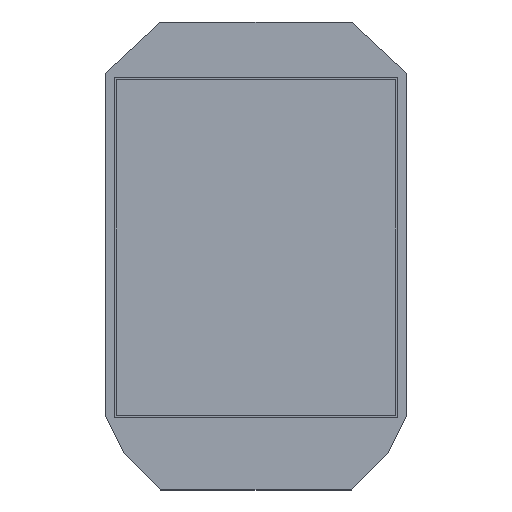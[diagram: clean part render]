
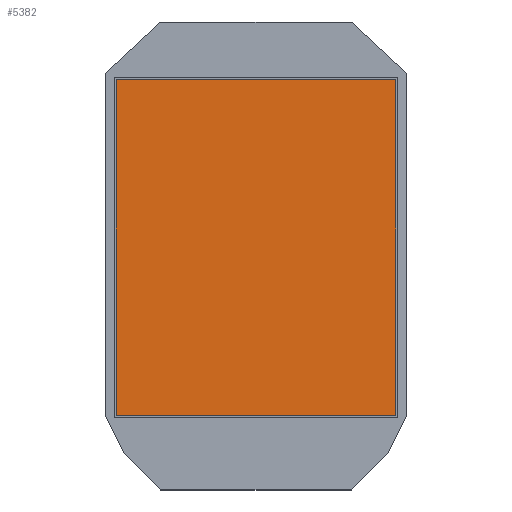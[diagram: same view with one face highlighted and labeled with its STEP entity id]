
A CAD part, top view. The second image highlights one B-rep face of the part: STEP entity #5382.
In plain terms, the highlighted planar face has unit normal (0, 0, 1).
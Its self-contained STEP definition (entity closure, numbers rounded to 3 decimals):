
#5068 = VERTEX_POINT('',#5069);
#5069 = CARTESIAN_POINT('',(-15.,104.,6.3));
#5076 = PLANE('',#5077);
#5077 = AXIS2_PLACEMENT_3D('',#5078,#5079,#5080);
#5078 = CARTESIAN_POINT('',(-15.,104.,4.9));
#5079 = DIRECTION('',(1.,0.,-0.));
#5080 = DIRECTION('',(0.,0.,1.));
#5088 = PLANE('',#5089);
#5089 = AXIS2_PLACEMENT_3D('',#5090,#5091,#5092);
#5090 = CARTESIAN_POINT('',(-15.,104.,4.9));
#5091 = DIRECTION('',(-0.,1.,0.));
#5092 = DIRECTION('',(0.,0.,1.));
#5129 = VERTEX_POINT('',#5130);
#5130 = CARTESIAN_POINT('',(-15.,140.,6.3));
#5144 = PLANE('',#5145);
#5145 = AXIS2_PLACEMENT_3D('',#5146,#5147,#5148);
#5146 = CARTESIAN_POINT('',(-15.,140.,4.9));
#5147 = DIRECTION('',(-0.,1.,0.));
#5148 = DIRECTION('',(0.,0.,1.));
#5156 = EDGE_CURVE('',#5068,#5129,#5157,.T.);
#5157 = SURFACE_CURVE('',#5158,(#5162,#5169),.PCURVE_S1.);
#5158 = LINE('',#5159,#5160);
#5159 = CARTESIAN_POINT('',(-15.,104.,6.3));
#5160 = VECTOR('',#5161,1.);
#5161 = DIRECTION('',(-0.,1.,0.));
#5162 = PCURVE('',#5076,#5163);
#5163 = DEFINITIONAL_REPRESENTATION('',(#5164),#5168);
#5164 = LINE('',#5165,#5166);
#5165 = CARTESIAN_POINT('',(1.4,0.));
#5166 = VECTOR('',#5167,1.);
#5167 = DIRECTION('',(0.,-1.));
#5168 = ( GEOMETRIC_REPRESENTATION_CONTEXT(2) 
PARAMETRIC_REPRESENTATION_CONTEXT() REPRESENTATION_CONTEXT('2D SPACE',''
  ) );
#5169 = PCURVE('',#5170,#5175);
#5170 = PLANE('',#5171);
#5171 = AXIS2_PLACEMENT_3D('',#5172,#5173,#5174);
#5172 = CARTESIAN_POINT('',(-15.,104.,6.3));
#5173 = DIRECTION('',(0.,0.,1.));
#5174 = DIRECTION('',(1.,0.,-0.));
#5175 = DEFINITIONAL_REPRESENTATION('',(#5176),#5180);
#5176 = LINE('',#5177,#5178);
#5177 = CARTESIAN_POINT('',(0.,0.));
#5178 = VECTOR('',#5179,1.);
#5179 = DIRECTION('',(0.,1.));
#5180 = ( GEOMETRIC_REPRESENTATION_CONTEXT(2) 
PARAMETRIC_REPRESENTATION_CONTEXT() REPRESENTATION_CONTEXT('2D SPACE',''
  ) );
#5188 = VERTEX_POINT('',#5189);
#5189 = CARTESIAN_POINT('',(15.,104.,6.3));
#5196 = PLANE('',#5197);
#5197 = AXIS2_PLACEMENT_3D('',#5198,#5199,#5200);
#5198 = CARTESIAN_POINT('',(15.,104.,4.9));
#5199 = DIRECTION('',(1.,0.,-0.));
#5200 = DIRECTION('',(0.,0.,1.));
#5239 = VERTEX_POINT('',#5240);
#5240 = CARTESIAN_POINT('',(15.,140.,6.3));
#5261 = EDGE_CURVE('',#5188,#5239,#5262,.T.);
#5262 = SURFACE_CURVE('',#5263,(#5267,#5274),.PCURVE_S1.);
#5263 = LINE('',#5264,#5265);
#5264 = CARTESIAN_POINT('',(15.,104.,6.3));
#5265 = VECTOR('',#5266,1.);
#5266 = DIRECTION('',(-0.,1.,0.));
#5267 = PCURVE('',#5196,#5268);
#5268 = DEFINITIONAL_REPRESENTATION('',(#5269),#5273);
#5269 = LINE('',#5270,#5271);
#5270 = CARTESIAN_POINT('',(1.4,0.));
#5271 = VECTOR('',#5272,1.);
#5272 = DIRECTION('',(0.,-1.));
#5273 = ( GEOMETRIC_REPRESENTATION_CONTEXT(2) 
PARAMETRIC_REPRESENTATION_CONTEXT() REPRESENTATION_CONTEXT('2D SPACE',''
  ) );
#5274 = PCURVE('',#5170,#5275);
#5275 = DEFINITIONAL_REPRESENTATION('',(#5276),#5280);
#5276 = LINE('',#5277,#5278);
#5277 = CARTESIAN_POINT('',(30.,0.));
#5278 = VECTOR('',#5279,1.);
#5279 = DIRECTION('',(0.,1.));
#5280 = ( GEOMETRIC_REPRESENTATION_CONTEXT(2) 
PARAMETRIC_REPRESENTATION_CONTEXT() REPRESENTATION_CONTEXT('2D SPACE',''
  ) );
#5307 = EDGE_CURVE('',#5068,#5188,#5308,.T.);
#5308 = SURFACE_CURVE('',#5309,(#5313,#5320),.PCURVE_S1.);
#5309 = LINE('',#5310,#5311);
#5310 = CARTESIAN_POINT('',(-15.,104.,6.3));
#5311 = VECTOR('',#5312,1.);
#5312 = DIRECTION('',(1.,0.,-0.));
#5313 = PCURVE('',#5088,#5314);
#5314 = DEFINITIONAL_REPRESENTATION('',(#5315),#5319);
#5315 = LINE('',#5316,#5317);
#5316 = CARTESIAN_POINT('',(1.4,0.));
#5317 = VECTOR('',#5318,1.);
#5318 = DIRECTION('',(0.,1.));
#5319 = ( GEOMETRIC_REPRESENTATION_CONTEXT(2) 
PARAMETRIC_REPRESENTATION_CONTEXT() REPRESENTATION_CONTEXT('2D SPACE',''
  ) );
#5320 = PCURVE('',#5170,#5321);
#5321 = DEFINITIONAL_REPRESENTATION('',(#5322),#5326);
#5322 = LINE('',#5323,#5324);
#5323 = CARTESIAN_POINT('',(0.,0.));
#5324 = VECTOR('',#5325,1.);
#5325 = DIRECTION('',(1.,0.));
#5326 = ( GEOMETRIC_REPRESENTATION_CONTEXT(2) 
PARAMETRIC_REPRESENTATION_CONTEXT() REPRESENTATION_CONTEXT('2D SPACE',''
  ) );
#5354 = EDGE_CURVE('',#5129,#5239,#5355,.T.);
#5355 = SURFACE_CURVE('',#5356,(#5360,#5367),.PCURVE_S1.);
#5356 = LINE('',#5357,#5358);
#5357 = CARTESIAN_POINT('',(-15.,140.,6.3));
#5358 = VECTOR('',#5359,1.);
#5359 = DIRECTION('',(1.,0.,-0.));
#5360 = PCURVE('',#5144,#5361);
#5361 = DEFINITIONAL_REPRESENTATION('',(#5362),#5366);
#5362 = LINE('',#5363,#5364);
#5363 = CARTESIAN_POINT('',(1.4,0.));
#5364 = VECTOR('',#5365,1.);
#5365 = DIRECTION('',(0.,1.));
#5366 = ( GEOMETRIC_REPRESENTATION_CONTEXT(2) 
PARAMETRIC_REPRESENTATION_CONTEXT() REPRESENTATION_CONTEXT('2D SPACE',''
  ) );
#5367 = PCURVE('',#5170,#5368);
#5368 = DEFINITIONAL_REPRESENTATION('',(#5369),#5373);
#5369 = LINE('',#5370,#5371);
#5370 = CARTESIAN_POINT('',(0.,36.));
#5371 = VECTOR('',#5372,1.);
#5372 = DIRECTION('',(1.,0.));
#5373 = ( GEOMETRIC_REPRESENTATION_CONTEXT(2) 
PARAMETRIC_REPRESENTATION_CONTEXT() REPRESENTATION_CONTEXT('2D SPACE',''
  ) );
#5382 = ADVANCED_FACE('',(#5383),#5170,.T.);
#5383 = FACE_BOUND('',#5384,.T.);
#5384 = EDGE_LOOP('',(#5385,#5386,#5387,#5388));
#5385 = ORIENTED_EDGE('',*,*,#5156,.F.);
#5386 = ORIENTED_EDGE('',*,*,#5307,.T.);
#5387 = ORIENTED_EDGE('',*,*,#5261,.T.);
#5388 = ORIENTED_EDGE('',*,*,#5354,.F.);
